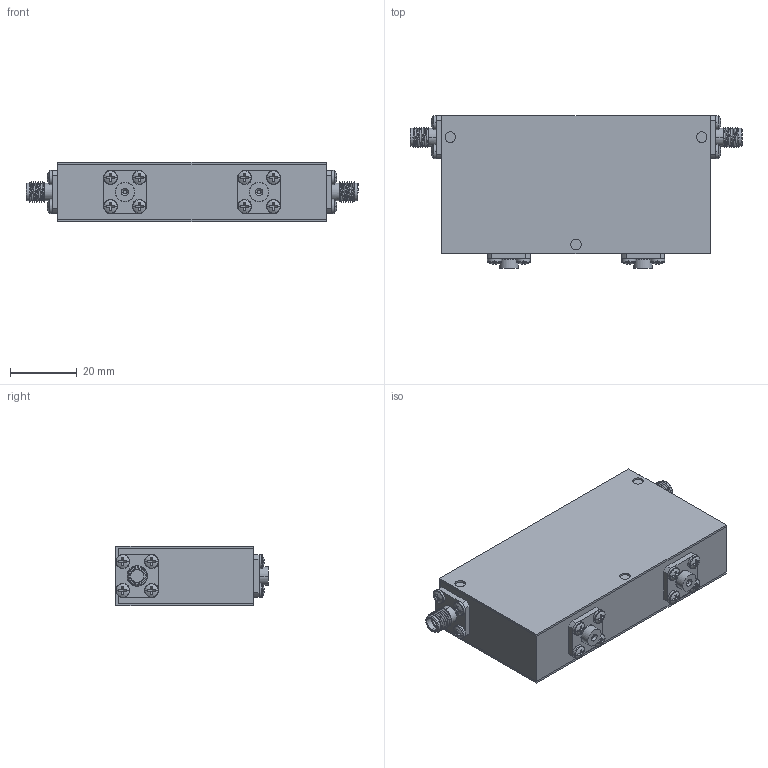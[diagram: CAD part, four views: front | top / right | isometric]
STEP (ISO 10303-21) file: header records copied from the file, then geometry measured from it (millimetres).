
FILE_DESCRIPTION (( 'STEP AP214' ), '1' );
FILE_NAME ('Package 17 Iso FF.step', '2021-12-01T20:58:50', ( '' ), ( '' ), 'SwSTEP 2.0', 'SolidWorks 2016', '' );
FILE_SCHEMA (( 'AUTOMOTIVE_DESIGN' ));
Length unit declared in the file: inch
Products named in the file (6): Package Size 17; 030013-1A Same Base thickness as connectors; Package 17; Delta SMA-Female 0.500 flange Threaded; Package 17 Iso FF; pan cross head_ai_CR-PHMS 0.086-56x0.125x0.125-N
Assembly tree (22 placements, depth 2):
  Package 17 Iso FF
    Package 17
    Delta SMA-Female 0.500 flange Threaded  x2
    pan cross head_ai_CR-PHMS 0.086-56x0.125x0.125-N  x16
    030013-1A Same Base thickness as connectors  x2
    Package Size 17
Bounding box: 99.31 x 45.68 x 17.78 mm (x, y, z)
Volume: 60265.8 mm3; surface area: 29943.5 mm2
Topology: 22 solids, 22 shells, 538 faces, 1222 edges, 754 vertices
Faces by surface type: plane 296, cylinder 156, torus 40, sphere 32, cone 8, bspline 6
Entity records: 4805 total; most frequent: CARTESIAN_POINT 1374, DIRECTION 727, ORIENTED_EDGE 594, EDGE_CURVE 297, AXIS2_PLACEMENT_3D 294, VERTEX_POINT 191, EDGE_LOOP 160, CIRCLE 150
